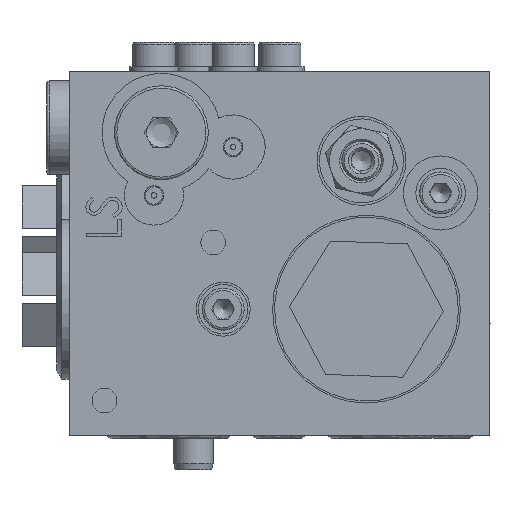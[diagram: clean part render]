
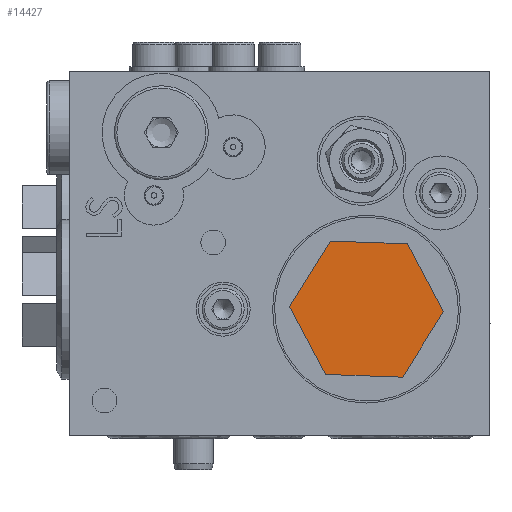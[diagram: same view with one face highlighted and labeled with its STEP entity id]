
A CAD part, left-side view. The second image highlights one B-rep face of the part: STEP entity #14427.
In plain terms, the highlighted planar face has unit normal (-1, 0, 0).
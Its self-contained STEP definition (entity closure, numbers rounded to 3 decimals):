
#429 = EDGE_LOOP ( 'NONE', ( #9241, #26754, #32049, #23431, #8269, #14164 ) ) ;
#1612 = LINE ( 'NONE', #28973, #16923 ) ;
#1683 = VERTEX_POINT ( 'NONE', #28780 ) ;
#2680 = DIRECTION ( 'NONE',  ( 0., 0.866, 0.5 ) ) ;
#3394 = DIRECTION ( 'NONE',  ( 1., 0., 0. ) ) ;
#4203 = DIRECTION ( 'NONE',  ( 0., 0., -1. ) ) ;
#4377 = CARTESIAN_POINT ( 'NONE',  ( 0., 0., -15.588 ) ) ;
#4458 = CARTESIAN_POINT ( 'NONE',  ( 0., 0., -15.588 ) ) ;
#5249 = LINE ( 'NONE', #7673, #34381 ) ;
#6114 = EDGE_CURVE ( 'NONE', #25514, #14055, #5249, .T. ) ;
#6246 = VERTEX_POINT ( 'NONE', #6332 ) ;
#6332 = CARTESIAN_POINT ( 'NONE',  ( 0., 13.5, 7.794 ) ) ;
#7153 = DIRECTION ( 'NONE',  ( 0., -0.866, -0.5 ) ) ;
#7337 = EDGE_CURVE ( 'NONE', #28334, #10758, #32557, .T. ) ;
#7501 = CARTESIAN_POINT ( 'NONE',  ( 0., 13.5, -7.794 ) ) ;
#7673 = CARTESIAN_POINT ( 'NONE',  ( 0., -13.5, 7.794 ) ) ;
#8269 = ORIENTED_EDGE ( 'NONE', *, *, #7337, .T. ) ;
#8297 = LINE ( 'NONE', #22164, #23562 ) ;
#8545 = DIRECTION ( 'NONE',  ( 0., 0., 1. ) ) ;
#9241 = ORIENTED_EDGE ( 'NONE', *, *, #6114, .T. ) ;
#10758 = VERTEX_POINT ( 'NONE', #35608 ) ;
#11376 = EDGE_CURVE ( 'NONE', #10758, #25514, #22777, .T. ) ;
#11765 = VECTOR ( 'NONE', #8545, 1000. ) ;
#12959 = AXIS2_PLACEMENT_3D ( 'NONE', #22634, #3394, #14664 ) ;
#13047 = LINE ( 'NONE', #7501, #34882 ) ;
#14011 = DIRECTION ( 'NONE',  ( 0., 0.866, -0.5 ) ) ;
#14055 = VERTEX_POINT ( 'NONE', #19903 ) ;
#14164 = ORIENTED_EDGE ( 'NONE', *, *, #11376, .T. ) ;
#14427 = ADVANCED_FACE ( 'NONE', ( #20044 ), #28896, .F. ) ;
#14664 = DIRECTION ( 'NONE',  ( 0., 0., -1. ) ) ;
#16923 = VECTOR ( 'NONE', #4203, 1000. ) ;
#17183 = EDGE_CURVE ( 'NONE', #1683, #28334, #13047, .T. ) ;
#18677 = VECTOR ( 'NONE', #26983, 1000. ) ;
#19903 = CARTESIAN_POINT ( 'NONE',  ( 0., 0., 15.588 ) ) ;
#20044 = FACE_OUTER_BOUND ( 'NONE', #429, .T. ) ;
#21012 = CARTESIAN_POINT ( 'NONE',  ( 0., -13.5, 7.794 ) ) ;
#22111 = EDGE_CURVE ( 'NONE', #14055, #6246, #8297, .T. ) ;
#22164 = CARTESIAN_POINT ( 'NONE',  ( 0., 0., 15.588 ) ) ;
#22634 = CARTESIAN_POINT ( 'NONE',  ( 0., 18.6, 0. ) ) ;
#22777 = LINE ( 'NONE', #33876, #11765 ) ;
#23431 = ORIENTED_EDGE ( 'NONE', *, *, #17183, .T. ) ;
#23562 = VECTOR ( 'NONE', #14011, 1000. ) ;
#24602 = EDGE_CURVE ( 'NONE', #6246, #1683, #1612, .T. ) ;
#25514 = VERTEX_POINT ( 'NONE', #21012 ) ;
#26754 = ORIENTED_EDGE ( 'NONE', *, *, #22111, .T. ) ;
#26983 = DIRECTION ( 'NONE',  ( 0., -0.866, 0.5 ) ) ;
#28334 = VERTEX_POINT ( 'NONE', #4377 ) ;
#28780 = CARTESIAN_POINT ( 'NONE',  ( 0., 13.5, -7.794 ) ) ;
#28896 = PLANE ( 'NONE',  #12959 ) ;
#28973 = CARTESIAN_POINT ( 'NONE',  ( 0., 13.5, 7.794 ) ) ;
#32049 = ORIENTED_EDGE ( 'NONE', *, *, #24602, .T. ) ;
#32557 = LINE ( 'NONE', #4458, #18677 ) ;
#33876 = CARTESIAN_POINT ( 'NONE',  ( 0., -13.5, -7.794 ) ) ;
#34381 = VECTOR ( 'NONE', #2680, 1000. ) ;
#34882 = VECTOR ( 'NONE', #7153, 1000. ) ;
#35608 = CARTESIAN_POINT ( 'NONE',  ( 0., -13.5, -7.794 ) ) ;
